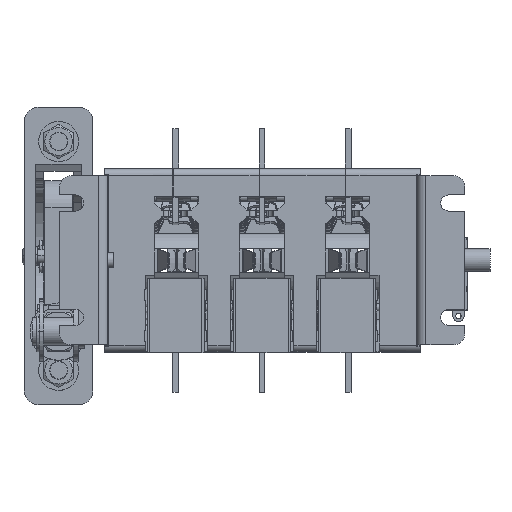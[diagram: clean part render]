
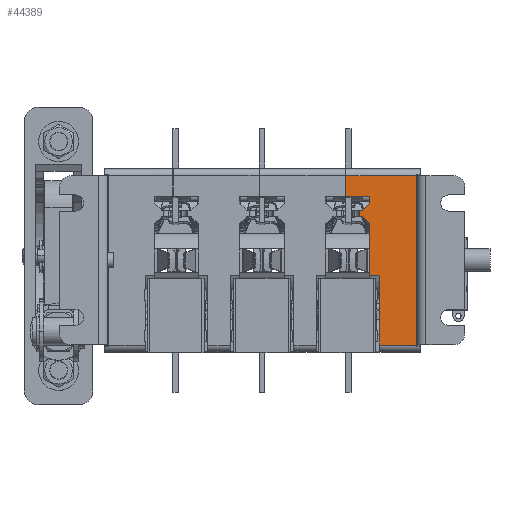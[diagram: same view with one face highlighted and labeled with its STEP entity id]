
A CAD part, top view. The second image highlights one B-rep face of the part: STEP entity #44389.
In plain terms, the highlighted planar face has unit normal (0, 0, 1) as drawn and (0, -1, 0) by its records, which use the part's own axes.
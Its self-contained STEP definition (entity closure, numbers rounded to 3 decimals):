
#394 = DIRECTION ( 'NONE',  ( -1., 0., 0. ) ) ;
#1278 = VERTEX_POINT ( 'NONE', #26657 ) ;
#1296 = LINE ( 'NONE', #27940, #70402 ) ;
#1963 = LINE ( 'NONE', #60488, #57497 ) ;
#2073 = AXIS2_PLACEMENT_3D ( 'NONE', #75962, #54680, #14911 ) ;
#2428 = VERTEX_POINT ( 'NONE', #66892 ) ;
#3285 = VECTOR ( 'NONE', #59513, 1000. ) ;
#3563 = ORIENTED_EDGE ( 'NONE', *, *, #29514, .T. ) ;
#6806 = DIRECTION ( 'NONE',  ( 1., 0., 0. ) ) ;
#7104 = CARTESIAN_POINT ( 'NONE',  ( 37., -17.5, 0. ) ) ;
#7180 = ORIENTED_EDGE ( 'NONE', *, *, #86037, .F. ) ;
#7371 = ORIENTED_EDGE ( 'NONE', *, *, #57522, .T. ) ;
#7406 = VERTEX_POINT ( 'NONE', #36490 ) ;
#7451 = CARTESIAN_POINT ( 'NONE',  ( -22., -17.5, -7. ) ) ;
#7659 = VERTEX_POINT ( 'NONE', #11578 ) ;
#7787 = DIRECTION ( 'NONE',  ( 0., 0., 1. ) ) ;
#8274 = VERTEX_POINT ( 'NONE', #67885 ) ;
#9822 = ORIENTED_EDGE ( 'NONE', *, *, #35749, .T. ) ;
#9989 = EDGE_CURVE ( 'NONE', #63982, #80852, #30550, .T. ) ;
#10054 = LINE ( 'NONE', #20947, #37262 ) ;
#10967 = CARTESIAN_POINT ( 'NONE',  ( 6.5, -17.5, -4. ) ) ;
#11578 = CARTESIAN_POINT ( 'NONE',  ( -22., -17.5, -8.5 ) ) ;
#12704 = CARTESIAN_POINT ( 'NONE',  ( -22., -17.5, -26.869 ) ) ;
#13016 = ORIENTED_EDGE ( 'NONE', *, *, #19300, .T. ) ;
#14250 = VECTOR ( 'NONE', #71182, 1000. ) ;
#14911 = DIRECTION ( 'NONE',  ( 0., 0., 1. ) ) ;
#17503 = VERTEX_POINT ( 'NONE', #83889 ) ;
#19300 = EDGE_CURVE ( 'NONE', #27228, #63982, #1963, .T. ) ;
#20664 = ORIENTED_EDGE ( 'NONE', *, *, #9989, .T. ) ;
#20947 = CARTESIAN_POINT ( 'NONE',  ( -15.5, -17.5, -3.5 ) ) ;
#24236 = LINE ( 'NONE', #12704, #3285 ) ;
#24726 = CARTESIAN_POINT ( 'NONE',  ( -37., -17.5, 18. ) ) ;
#25103 = VERTEX_POINT ( 'NONE', #78160 ) ;
#26657 = CARTESIAN_POINT ( 'NONE',  ( -25., -17.5, -4. ) ) ;
#27214 = VERTEX_POINT ( 'NONE', #76856 ) ;
#27228 = VERTEX_POINT ( 'NONE', #49750 ) ;
#27940 = CARTESIAN_POINT ( 'NONE',  ( -37., -17.5, 16.5 ) ) ;
#29228 = VECTOR ( 'NONE', #86216, 1000. ) ;
#29514 = EDGE_CURVE ( 'NONE', #1278, #36683, #34780, .T. ) ;
#30003 = DIRECTION ( 'NONE',  ( 1., 0., 0. ) ) ;
#30550 = LINE ( 'NONE', #74351, #68200 ) ;
#32696 = LINE ( 'NONE', #36995, #81742 ) ;
#34780 = LINE ( 'NONE', #75527, #49460 ) ;
#35749 = EDGE_CURVE ( 'NONE', #17503, #61533, #32696, .T. ) ;
#36490 = CARTESIAN_POINT ( 'NONE',  ( -37., -17.5, -14.5 ) ) ;
#36683 = VERTEX_POINT ( 'NONE', #7451 ) ;
#36995 = CARTESIAN_POINT ( 'NONE',  ( -19., -17.5, -26.869 ) ) ;
#37144 = LINE ( 'NONE', #61009, #68487 ) ;
#37262 = VECTOR ( 'NONE', #67441, 1000. ) ;
#37446 = ORIENTED_EDGE ( 'NONE', *, *, #74000, .T. ) ;
#37844 = DIRECTION ( 'NONE',  ( 0., 0., 1. ) ) ;
#38968 = ORIENTED_EDGE ( 'NONE', *, *, #61097, .F. ) ;
#39746 = EDGE_CURVE ( 'NONE', #1278, #42900, #37144, .T. ) ;
#40419 = ORIENTED_EDGE ( 'NONE', *, *, #45758, .F. ) ;
#41191 = FACE_OUTER_BOUND ( 'NONE', #76237, .T. ) ;
#42335 = ORIENTED_EDGE ( 'NONE', *, *, #57391, .F. ) ;
#42647 = PLANE ( 'NONE',  #2073 ) ;
#42900 = VERTEX_POINT ( 'NONE', #46402 ) ;
#43371 = CARTESIAN_POINT ( 'NONE',  ( -28., -17.5, -14.5 ) ) ;
#44389 = ADVANCED_FACE ( 'NONE', ( #41191 ), #42647, .F. ) ;
#45429 = CARTESIAN_POINT ( 'NONE',  ( 37., -17.5, 18. ) ) ;
#45758 = EDGE_CURVE ( 'NONE', #25103, #7406, #62736, .T. ) ;
#46340 = ORIENTED_EDGE ( 'NONE', *, *, #39746, .F. ) ;
#46402 = CARTESIAN_POINT ( 'NONE',  ( -28., -17.5, -4. ) ) ;
#49460 = VECTOR ( 'NONE', #82213, 1000. ) ;
#49708 = EDGE_CURVE ( 'NONE', #7659, #36683, #24236, .T. ) ;
#49750 = CARTESIAN_POINT ( 'NONE',  ( 6.5, -17.5, -4. ) ) ;
#49790 = VECTOR ( 'NONE', #65918, 1000. ) ;
#50227 = ORIENTED_EDGE ( 'NONE', *, *, #49708, .F. ) ;
#50637 = CARTESIAN_POINT ( 'NONE',  ( 6.5, -17.5, 0. ) ) ;
#54680 = DIRECTION ( 'NONE',  ( 0., 1., 0. ) ) ;
#55142 = DIRECTION ( 'NONE',  ( 1., 0., 0. ) ) ;
#57391 = EDGE_CURVE ( 'NONE', #27228, #27214, #58172, .T. ) ;
#57497 = VECTOR ( 'NONE', #79666, 1000. ) ;
#57522 = EDGE_CURVE ( 'NONE', #8274, #7406, #67528, .T. ) ;
#57891 = VECTOR ( 'NONE', #30003, 1000. ) ;
#58172 = LINE ( 'NONE', #10967, #14250 ) ;
#58887 = CARTESIAN_POINT ( 'NONE',  ( -19., -17.5, -7. ) ) ;
#58952 = LINE ( 'NONE', #74425, #66223 ) ;
#59513 = DIRECTION ( 'NONE',  ( 0., 0., 1. ) ) ;
#60488 = CARTESIAN_POINT ( 'NONE',  ( 6.5, -17.5, -7. ) ) ;
#60825 = ORIENTED_EDGE ( 'NONE', *, *, #83749, .T. ) ;
#61009 = CARTESIAN_POINT ( 'NONE',  ( -22., -17.5, -4. ) ) ;
#61097 = EDGE_CURVE ( 'NONE', #2428, #80852, #82496, .T. ) ;
#61533 = VERTEX_POINT ( 'NONE', #58887 ) ;
#62725 = DIRECTION ( 'NONE',  ( -1., 0., 0. ) ) ;
#62736 = LINE ( 'NONE', #43371, #79410 ) ;
#63982 = VERTEX_POINT ( 'NONE', #50637 ) ;
#65918 = DIRECTION ( 'NONE',  ( 0., 0., -1. ) ) ;
#66223 = VECTOR ( 'NONE', #7787, 1000. ) ;
#66230 = LINE ( 'NONE', #76742, #57891 ) ;
#66892 = CARTESIAN_POINT ( 'NONE',  ( 37., -17.5, 16.5 ) ) ;
#66976 = ORIENTED_EDGE ( 'NONE', *, *, #82627, .T. ) ;
#67441 = DIRECTION ( 'NONE',  ( 0.707, 0., 0.707 ) ) ;
#67528 = LINE ( 'NONE', #24726, #49790 ) ;
#67885 = CARTESIAN_POINT ( 'NONE',  ( -37., -17.5, 16.5 ) ) ;
#68200 = VECTOR ( 'NONE', #6806, 1000. ) ;
#68487 = VECTOR ( 'NONE', #394, 1000. ) ;
#70402 = VECTOR ( 'NONE', #55142, 1000. ) ;
#71182 = DIRECTION ( 'NONE',  ( -1., 0., 0. ) ) ;
#74000 = EDGE_CURVE ( 'NONE', #7659, #17503, #66230, .T. ) ;
#74351 = CARTESIAN_POINT ( 'NONE',  ( -37., -17.5, 0. ) ) ;
#74425 = CARTESIAN_POINT ( 'NONE',  ( -28., -17.5, -12.2 ) ) ;
#75527 = CARTESIAN_POINT ( 'NONE',  ( -42., -17.5, 13. ) ) ;
#75962 = CARTESIAN_POINT ( 'NONE',  ( -37., -17.5, 18. ) ) ;
#76237 = EDGE_LOOP ( 'NONE', ( #50227, #37446, #9822, #60825, #42335, #13016, #20664, #38968, #7180, #7371, #40419, #66976, #46340, #3563 ) ) ;
#76742 = CARTESIAN_POINT ( 'NONE',  ( -26.243, -17.5, -8.5 ) ) ;
#76856 = CARTESIAN_POINT ( 'NONE',  ( -16., -17.5, -4. ) ) ;
#78160 = CARTESIAN_POINT ( 'NONE',  ( -28., -17.5, -14.5 ) ) ;
#79410 = VECTOR ( 'NONE', #62725, 1000. ) ;
#79666 = DIRECTION ( 'NONE',  ( 0., 0., 1. ) ) ;
#80852 = VERTEX_POINT ( 'NONE', #7104 ) ;
#81742 = VECTOR ( 'NONE', #37844, 1000. ) ;
#82213 = DIRECTION ( 'NONE',  ( 0.707, 0., -0.707 ) ) ;
#82496 = LINE ( 'NONE', #45429, #29228 ) ;
#82627 = EDGE_CURVE ( 'NONE', #25103, #42900, #58952, .T. ) ;
#83749 = EDGE_CURVE ( 'NONE', #61533, #27214, #10054, .T. ) ;
#83889 = CARTESIAN_POINT ( 'NONE',  ( -19., -17.5, -8.5 ) ) ;
#86037 = EDGE_CURVE ( 'NONE', #8274, #2428, #1296, .T. ) ;
#86216 = DIRECTION ( 'NONE',  ( 0., 0., -1. ) ) ;
